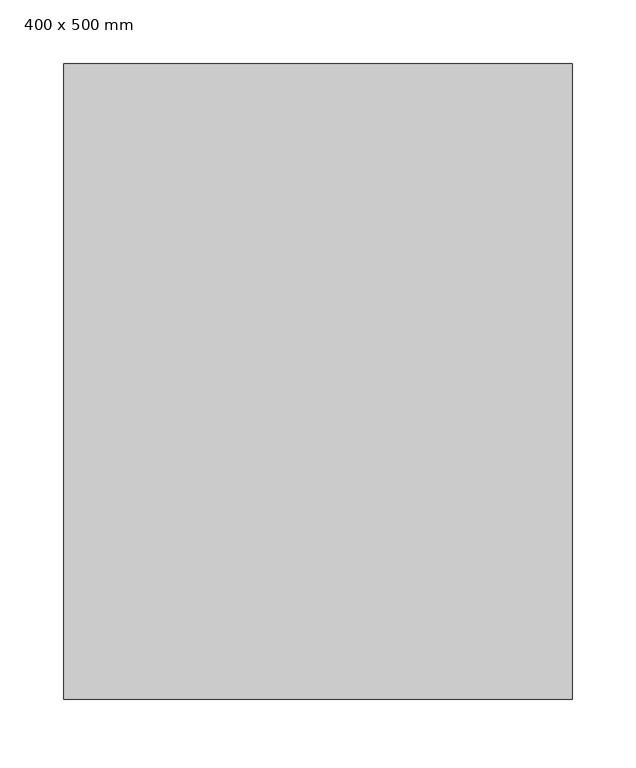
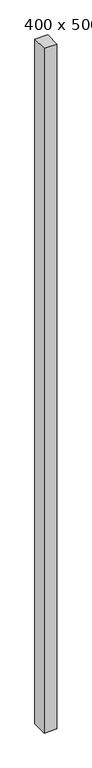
"""IFC4 building model written with IfcOpenShell, lengths in millimetres: column geometry, 预制-矩形柱 : 400 x 500 mm."""

from ifc_helpers import new_model, si_unit, frame, origin, place, context, project, spatial, polyline, outline, extrude, source, transform, mapped, element, save


def column_400_x_500_mm_eafb277b(model_context):
    return source(origin(), model_context, "Body", "SweptSolid", [
        extrude(outline(polyline([(200.0, 250.0), (200.0, -250.0), (-200.0, -250.0), (-200.0, 250.0), (200.0, 250.0)])), frame((0.0, 0.0, -3900.0), z_axis=(0.0, 0.0, 1.0), x_axis=(1.0, 0.0, 0.0)), (0.0, 0.0, 1.0), 22800.0),
    ])


if __name__ == "__main__":
    model = new_model("IFC4")
    model_context = context("Model", 3, world=origin())
    ifc_project = project(units=[si_unit("LENGTHUNIT", "METRE", prefix="MILLI")], contexts=[model_context])
    site = spatial("IfcSite", under=ifc_project)
    building = spatial("IfcBuilding", under=site)
    placement = place(None, origin())
    column_400_x_500_mm_shape = column_400_x_500_mm_eafb277b(model_context)
    element("IfcColumn", 1, ObjectType="预制-矩形柱 : 400 x 500 mm", at=placement, inside=building, context=model_context, shape_type="MappedRepresentation", body=[
        mapped(column_400_x_500_mm_shape, transform((0.0, 0.0, 0.0), x_axis=(1.0, 0.0, 0.0), y_axis=(0.0, 1.0, 0.0), z_axis=(0.0, 0.0, 1.0))),
    ])
    save(model, "model.ifc")
